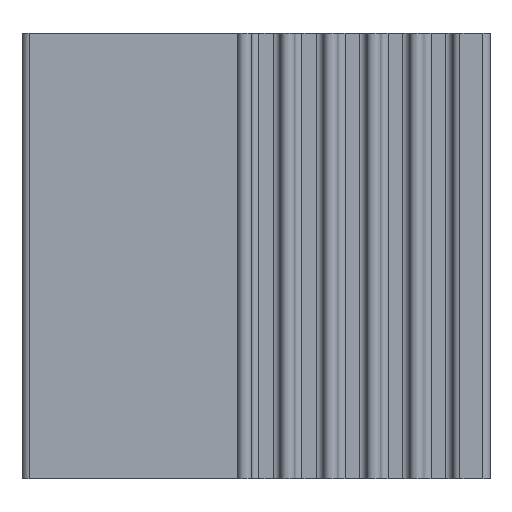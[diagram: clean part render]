
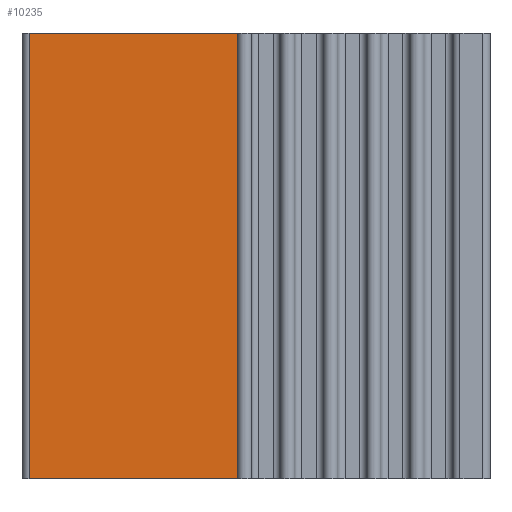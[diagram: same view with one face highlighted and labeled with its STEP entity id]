
A CAD part, left-side view. The second image highlights one B-rep face of the part: STEP entity #10235.
In plain terms, the highlighted planar face has unit normal (-1, 0, 0).
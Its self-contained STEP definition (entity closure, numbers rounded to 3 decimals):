
#8378=DIRECTION('',(0.,0.,1.));
#8379=VECTOR('',#8378,62.);
#8380=CARTESIAN_POINT('',(-31.,0.,-31.));
#8381=LINE('',#8380,#8379);
#8386=DIRECTION('',(0.,0.,-1.));
#8387=VECTOR('',#8386,62.);
#8388=CARTESIAN_POINT('',(-31.,29.,31.));
#8389=LINE('',#8388,#8387);
#8500=DIRECTION('',(0.,1.,0.));
#8501=VECTOR('',#8500,29.);
#8502=CARTESIAN_POINT('',(-31.,0.,-31.));
#8503=LINE('',#8502,#8501);
#8691=DIRECTION('',(0.,-1.,0.));
#8692=VECTOR('',#8691,29.);
#8693=CARTESIAN_POINT('',(-31.,29.,31.));
#8694=LINE('',#8693,#8692);
#9732=CARTESIAN_POINT('',(-31.,0.,-31.));
#9733=CARTESIAN_POINT('',(-31.,0.,31.));
#9734=VERTEX_POINT('',#9732);
#9735=VERTEX_POINT('',#9733);
#9772=CARTESIAN_POINT('',(-31.,29.,31.));
#9773=CARTESIAN_POINT('',(-31.,29.,-31.));
#9774=VERTEX_POINT('',#9772);
#9775=VERTEX_POINT('',#9773);
#10221=CARTESIAN_POINT('',(-31.,14.5,0.));
#10222=DIRECTION('',(1.,0.,0.));
#10223=DIRECTION('',(0.,0.,1.));
#10224=AXIS2_PLACEMENT_3D('',#10221,#10222,#10223);
#10225=PLANE('',#10224);
#10227=ORIENTED_EDGE('',*,*,#10226,.F.);
#10229=ORIENTED_EDGE('',*,*,#10228,.T.);
#10230=ORIENTED_EDGE('',*,*,#10161,.F.);
#10232=ORIENTED_EDGE('',*,*,#10231,.T.);
#10233=EDGE_LOOP('',(#10227,#10229,#10230,#10232));
#10234=FACE_OUTER_BOUND('',#10233,.F.);
#10161=EDGE_CURVE('',#9734,#9735,#8381,.T.);
#10226=EDGE_CURVE('',#9774,#9775,#8389,.T.);
#10228=EDGE_CURVE('',#9774,#9735,#8694,.T.);
#10231=EDGE_CURVE('',#9734,#9775,#8503,.T.);
#10235=ADVANCED_FACE('',(#10234),#10225,.F.);
